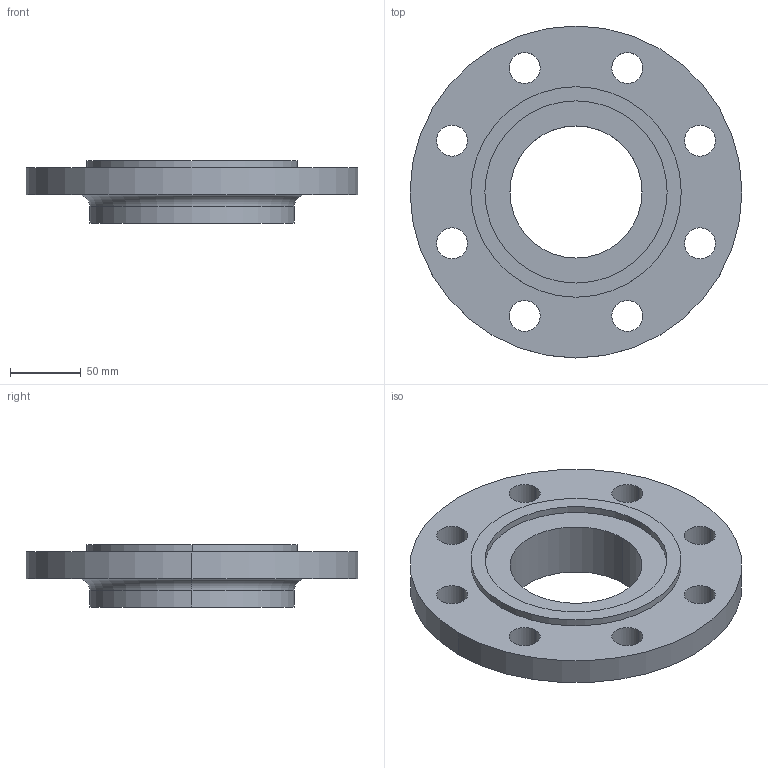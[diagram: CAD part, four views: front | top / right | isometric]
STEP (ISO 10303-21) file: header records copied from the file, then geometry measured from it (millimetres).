
FILE_DESCRIPTION (( 'STEP AP214' ), '1' );
FILE_NAME ('PN40 DN100 Type 13 - Type C Face.STEP', '2019-01-02T00:19:06', ( '' ), ( '' ), 'SwSTEP 2.0', 'SolidWorks 2019', '' );
FILE_SCHEMA (( 'AUTOMOTIVE_DESIGN' ));
Length unit declared in the file: millimetre
Products named in the file (1): PN40 DN100 Type 13 - Type C Face
Bounding box: 235 x 235 x 44 mm (x, y, z)
Volume: 857014.8 mm3; surface area: 114862.2 mm2
Topology: 1 solids, 1 shells, 33 faces, 82 edges, 54 vertices
Faces by surface type: cylinder 26, plane 5, torus 2
Entity records: 1086 total; most frequent: DIRECTION 206, CARTESIAN_POINT 170, ORIENTED_EDGE 164, AXIS2_PLACEMENT_3D 90, EDGE_CURVE 82, CIRCLE 56, VERTEX_POINT 54, EDGE_LOOP 54
